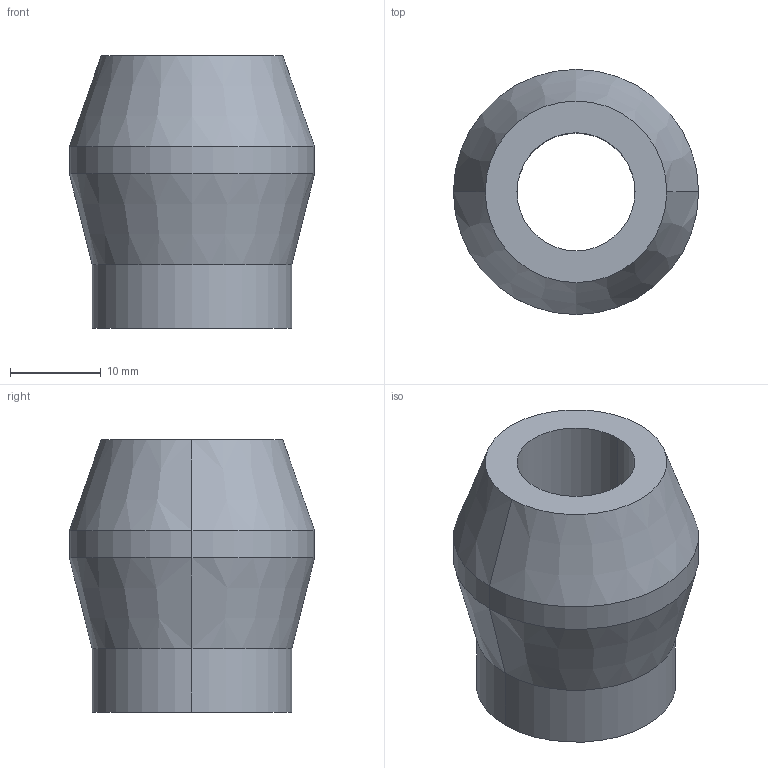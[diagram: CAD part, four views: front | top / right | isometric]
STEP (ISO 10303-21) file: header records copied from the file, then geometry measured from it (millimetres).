
FILE_DESCRIPTION(/* description */ (''),/* implementation_level */ '2;1');
FILE_NAME(/* name */ '3d_su22_07096_r00.stp',/* time_stamp */ '2011-01-10T14:09:29+09:00',/* author */ ('MISUMI'),/* organization */ (''),/* preprocessor_version */ 'ST-DEVELOPER v11',/* originating_system */ 'UGS - NX 5.0',/* authorisation */ '');
FILE_SCHEMA (('CONFIG_CONTROL_DESIGN'));
Length unit declared in the file: millimetre
Products named in the file (1): 3d_su22_07096_r00
Bounding box: 27 x 27 x 30 mm (x, y, z)
Volume: 9496.8 mm3; surface area: 3967.9 mm2
Topology: 1 solids, 1 shells, 12 faces, 24 edges, 14 vertices
Faces by surface type: cylinder 6, cone 4, plane 2
Entity records: 404 total; most frequent: DIRECTION 64, CARTESIAN_POINT 51, ORIENTED_EDGE 48, AXIS2_PLACEMENT_3D 27, EDGE_CURVE 24, EDGE_LOOP 14, CIRCLE 14, VERTEX_POINT 14
